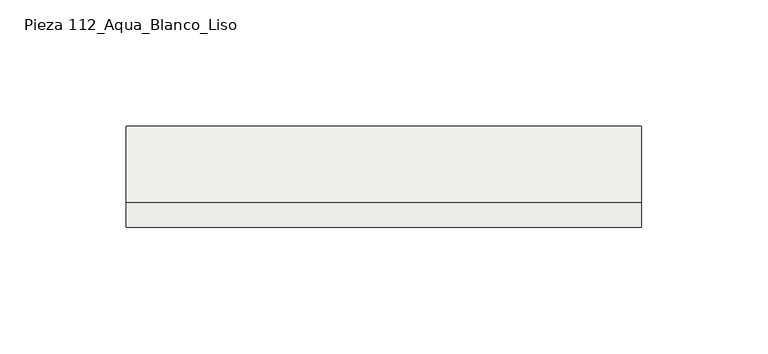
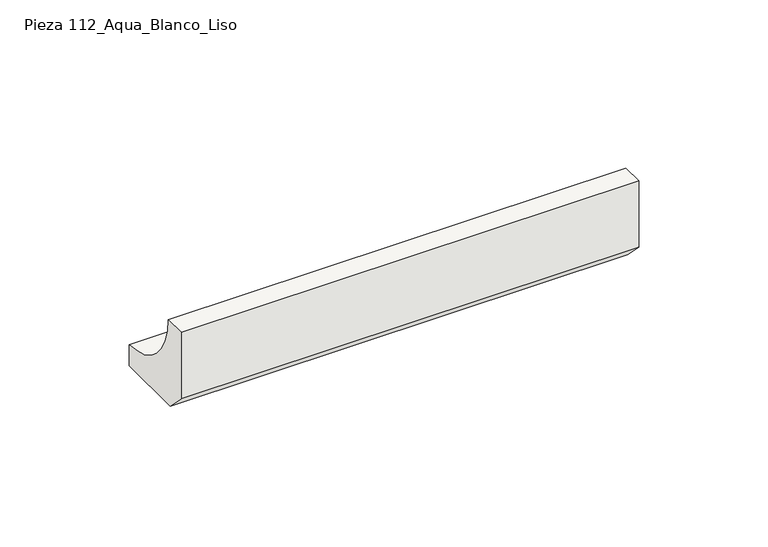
"""IFC4 building model written with IfcOpenShell, lengths in millimetres: slab geometry, ROSA GRES_112 : Pieza 112_Aqua_Blanco_Liso."""

from ifc_helpers import new_model, si_unit, point, frame, frame_2d, origin, place, context, project, spatial, polyline, circle_curve, trimmed, segment, composite_curve, outline, extrude, source, transform, mapped, element, save


def pieza_112_aqua_blanco_liso_46051539(model_context):
    return source(origin(), model_context, "Body", "SweptSolid", [
        extrude(outline(composite_curve([segment(polyline([(-9.9734114, 8.7114978), (-9.9734114, 40.0), (0.0, 40.0)]), True, "CONTINUOUS"), segment(trimmed(circle_curve(frame_2d((30.0221432, 39.9955547)), 30.0221435), [point((0.0, 40.0))], [point((30.0265886, 9.9734114))], True, "CARTESIAN"), True, "CONTINUOUS"), segment(polyline([(30.0265886, 9.9734114), (30.0265886, 0.0), (-1.2619137, 0.0), (-9.9734114, 8.7114978)]), True, "CONTINUOUS")], self_intersect=False)), frame((0.0, 0.0, 0.0), z_axis=(1.0, 0.0, 0.0), x_axis=(0.0, 1.0, 0.0)), (0.0, 0.0, 1.0), 203.8436199),
    ])


if __name__ == "__main__":
    model = new_model("IFC4")
    model_context = context("Model", 3, world=origin())
    ifc_project = project(units=[si_unit("LENGTHUNIT", "METRE", prefix="MILLI")], contexts=[model_context])
    site = spatial("IfcSite", under=ifc_project)
    building = spatial("IfcBuilding", under=site)
    placement = place(None, origin())
    pieza_112_aqua_blanco_liso_shape = pieza_112_aqua_blanco_liso_46051539(model_context)
    element("IfcSlab", 1, ObjectType="ROSA GRES_112 : Pieza 112_Aqua_Blanco_Liso", at=placement, inside=building, context=model_context, shape_type="MappedRepresentation", body=[
        mapped(pieza_112_aqua_blanco_liso_shape, transform((0.0, 0.0, 0.0), x_axis=(1.0, 0.0, 0.0), y_axis=(0.0, 1.0, 0.0), z_axis=(0.0, 0.0, 1.0))),
    ])
    save(model, "model.ifc")
